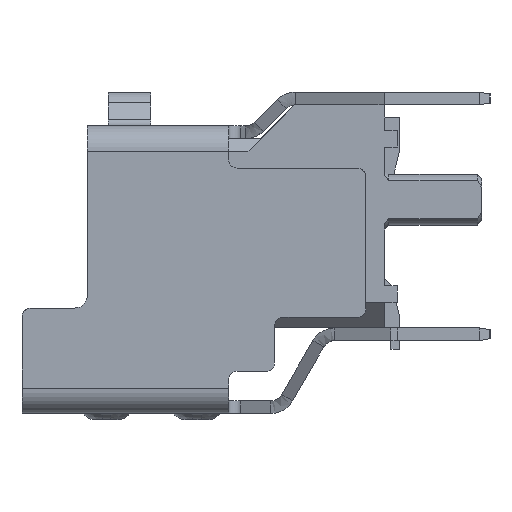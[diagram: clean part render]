
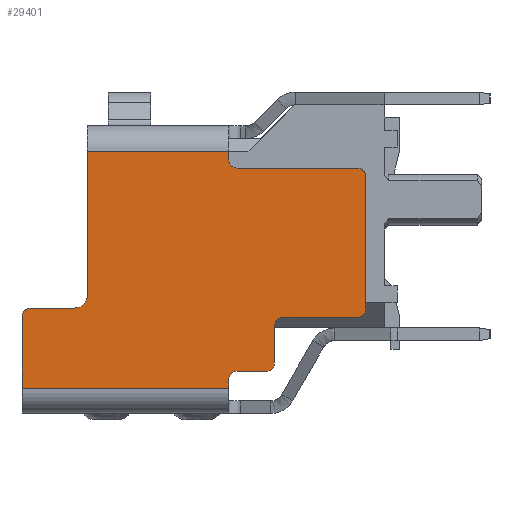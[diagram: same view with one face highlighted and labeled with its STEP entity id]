
A CAD part, left-side view. The second image highlights one B-rep face of the part: STEP entity #29401.
In plain terms, the highlighted planar face has unit normal (-1, 0, 0).
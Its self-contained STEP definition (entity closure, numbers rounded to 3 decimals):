
#6807=DIRECTION('',(0.,0.,-1.));
#6808=VECTOR('',#6807,1.7);
#6809=CARTESIAN_POINT('',(-12.9,8.37,-1.97));
#6810=LINE('',#6809,#6808);
#6998=DIRECTION('',(0.,-1.,0.));
#6999=VECTOR('',#6998,4.9);
#7000=CARTESIAN_POINT('',(-12.9,8.37,-3.67));
#7001=LINE('',#7000,#6999);
#7002=CARTESIAN_POINT('',(-12.9,6.62,1.78));
#7003=DIRECTION('',(1.,0.,0.));
#7004=DIRECTION('',(0.,0.978,-0.207));
#7005=AXIS2_PLACEMENT_3D('',#7002,#7003,#7004);
#7007=DIRECTION('',(0.,0.,-1.));
#7008=VECTOR('',#7007,0.2);
#7009=CARTESIAN_POINT('',(-12.9,3.47,1.95));
#7010=LINE('',#7009,#7008);
#7011=CARTESIAN_POINT('',(-12.9,3.27,1.75));
#7012=DIRECTION('',(-1.,0.,0.));
#7013=DIRECTION('',(0.,1.,0.));
#7014=AXIS2_PLACEMENT_3D('',#7011,#7012,#7013);
#7016=CARTESIAN_POINT('',(-12.9,0.42,1.35));
#7017=DIRECTION('',(1.,0.,0.));
#7018=DIRECTION('',(0.,0.,1.));
#7019=AXIS2_PLACEMENT_3D('',#7016,#7017,#7018);
#7021=DIRECTION('',(0.,0.,-1.));
#7022=VECTOR('',#7021,3.14);
#7023=CARTESIAN_POINT('',(-12.9,0.22,1.35));
#7024=LINE('',#7023,#7022);
#7025=CARTESIAN_POINT('',(-12.9,0.42,-1.79));
#7026=DIRECTION('',(1.,0.,0.));
#7027=DIRECTION('',(0.,-1.,0.));
#7028=AXIS2_PLACEMENT_3D('',#7025,#7026,#7027);
#7030=DIRECTION('',(0.,1.,0.));
#7031=VECTOR('',#7030,1.76);
#7032=CARTESIAN_POINT('',(-12.9,0.42,-1.99));
#7033=LINE('',#7032,#7031);
#7034=CARTESIAN_POINT('',(-12.9,2.18,-2.19));
#7035=DIRECTION('',(-1.,0.,0.));
#7036=DIRECTION('',(0.,0.,1.));
#7037=AXIS2_PLACEMENT_3D('',#7034,#7035,#7036);
#7039=DIRECTION('',(0.,0.,-1.));
#7040=VECTOR('',#7039,0.88);
#7041=CARTESIAN_POINT('',(-12.9,2.38,-2.19));
#7042=LINE('',#7041,#7040);
#7043=CARTESIAN_POINT('',(-12.9,2.58,-3.07));
#7044=DIRECTION('',(1.,0.,0.));
#7045=DIRECTION('',(0.,-1.,0.));
#7046=AXIS2_PLACEMENT_3D('',#7043,#7044,#7045);
#7048=DIRECTION('',(0.,1.,0.));
#7049=VECTOR('',#7048,0.69);
#7050=CARTESIAN_POINT('',(-12.9,2.58,-3.27));
#7051=LINE('',#7050,#7049);
#7052=CARTESIAN_POINT('',(-12.9,3.27,-3.47));
#7053=DIRECTION('',(-1.,0.,0.));
#7054=DIRECTION('',(0.,0.,1.));
#7055=AXIS2_PLACEMENT_3D('',#7052,#7053,#7054);
#7057=DIRECTION('',(0.,0.,-1.));
#7058=VECTOR('',#7057,0.2);
#7059=CARTESIAN_POINT('',(-12.9,3.47,-3.47));
#7060=LINE('',#7059,#7058);
#7061=CARTESIAN_POINT('',(-12.9,8.17,-1.97));
#7062=DIRECTION('',(1.,0.,0.));
#7063=DIRECTION('',(0.,1.,0.));
#7064=AXIS2_PLACEMENT_3D('',#7061,#7062,#7063);
#7066=CARTESIAN_POINT('',(-12.9,7.12,-1.47));
#7067=DIRECTION('',(-1.,0.,0.));
#7068=DIRECTION('',(0.,0.,-1.));
#7069=AXIS2_PLACEMENT_3D('',#7066,#7067,#7068);
#7071=DIRECTION('',(0.,0.,-1.));
#7072=VECTOR('',#7071,3.209);
#7073=CARTESIAN_POINT('',(-12.9,6.82,1.739));
#7074=LINE('',#7073,#7072);
#7156=DIRECTION('',(0.,1.,0.));
#7157=VECTOR('',#7156,0.004);
#7158=CARTESIAN_POINT('',(-12.9,6.816,1.739));
#7159=LINE('',#7158,#7157);
#7190=DIRECTION('',(0.,0.,-1.));
#7191=VECTOR('',#7190,0.17);
#7192=CARTESIAN_POINT('',(-12.9,6.82,1.95));
#7193=LINE('',#7192,#7191);
#7228=DIRECTION('',(0.,1.,0.));
#7229=VECTOR('',#7228,2.85);
#7230=CARTESIAN_POINT('',(-12.9,0.42,1.55));
#7231=LINE('',#7230,#7229);
#7292=DIRECTION('',(0.,1.,0.));
#7293=VECTOR('',#7292,3.35);
#7294=CARTESIAN_POINT('',(-12.9,3.47,1.95));
#7295=LINE('',#7294,#7293);
#7510=DIRECTION('',(0.,1.,0.));
#7511=VECTOR('',#7510,1.05);
#7512=CARTESIAN_POINT('',(-12.9,7.12,-1.77));
#7513=LINE('',#7512,#7511);
#18683=CARTESIAN_POINT('',(-12.9,8.37,-1.97));
#18684=VERTEX_POINT('',#18683);
#18685=CARTESIAN_POINT('',(-12.9,8.37,-3.67));
#18686=VERTEX_POINT('',#18685);
#19039=CARTESIAN_POINT('',(-12.9,3.47,-3.67));
#19040=VERTEX_POINT('',#19039);
#19041=CARTESIAN_POINT('',(-12.9,3.47,-3.47));
#19042=VERTEX_POINT('',#19041);
#19047=CARTESIAN_POINT('',(-12.9,6.82,1.739));
#19048=CARTESIAN_POINT('',(-12.9,6.82,-1.47));
#19049=VERTEX_POINT('',#19047);
#19050=VERTEX_POINT('',#19048);
#19051=CARTESIAN_POINT('',(-12.9,6.816,1.739));
#19052=VERTEX_POINT('',#19051);
#19053=CARTESIAN_POINT('',(-12.9,6.82,1.78));
#19054=VERTEX_POINT('',#19053);
#19055=CARTESIAN_POINT('',(-12.9,6.82,1.95));
#19056=VERTEX_POINT('',#19055);
#19057=CARTESIAN_POINT('',(-12.9,3.47,1.95));
#19058=VERTEX_POINT('',#19057);
#19059=CARTESIAN_POINT('',(-12.9,3.47,1.75));
#19060=VERTEX_POINT('',#19059);
#19061=CARTESIAN_POINT('',(-12.9,3.27,1.55));
#19062=VERTEX_POINT('',#19061);
#19063=CARTESIAN_POINT('',(-12.9,0.42,1.55));
#19064=VERTEX_POINT('',#19063);
#19065=CARTESIAN_POINT('',(-12.9,0.22,1.35));
#19066=VERTEX_POINT('',#19065);
#19067=CARTESIAN_POINT('',(-12.9,0.22,-1.79));
#19068=VERTEX_POINT('',#19067);
#19069=CARTESIAN_POINT('',(-12.9,0.42,-1.99));
#19070=VERTEX_POINT('',#19069);
#19071=CARTESIAN_POINT('',(-12.9,2.18,-1.99));
#19072=VERTEX_POINT('',#19071);
#19073=CARTESIAN_POINT('',(-12.9,2.38,-2.19));
#19074=VERTEX_POINT('',#19073);
#19075=CARTESIAN_POINT('',(-12.9,2.38,-3.07));
#19076=VERTEX_POINT('',#19075);
#19077=CARTESIAN_POINT('',(-12.9,2.58,-3.27));
#19078=VERTEX_POINT('',#19077);
#19079=CARTESIAN_POINT('',(-12.9,3.27,-3.27));
#19080=VERTEX_POINT('',#19079);
#19081=CARTESIAN_POINT('',(-12.9,8.17,-1.77));
#19082=VERTEX_POINT('',#19081);
#19083=CARTESIAN_POINT('',(-12.9,7.12,-1.77));
#19084=VERTEX_POINT('',#19083);
#29351=CARTESIAN_POINT('',(-12.9,4.295,-0.86));
#29352=DIRECTION('',(1.,0.,0.));
#29353=DIRECTION('',(0.,0.,-1.));
#29354=AXIS2_PLACEMENT_3D('',#29351,#29352,#29353);
#29355=PLANE('',#29354);
#29357=ORIENTED_EDGE('',*,*,#29356,.F.);
#29359=ORIENTED_EDGE('',*,*,#29358,.F.);
#29361=ORIENTED_EDGE('',*,*,#29360,.T.);
#29363=ORIENTED_EDGE('',*,*,#29362,.F.);
#29365=ORIENTED_EDGE('',*,*,#29364,.F.);
#29367=ORIENTED_EDGE('',*,*,#29366,.T.);
#29369=ORIENTED_EDGE('',*,*,#29368,.T.);
#29371=ORIENTED_EDGE('',*,*,#29370,.F.);
#29373=ORIENTED_EDGE('',*,*,#29372,.T.);
#29375=ORIENTED_EDGE('',*,*,#29374,.T.);
#29377=ORIENTED_EDGE('',*,*,#29376,.T.);
#29379=ORIENTED_EDGE('',*,*,#29378,.T.);
#29381=ORIENTED_EDGE('',*,*,#29380,.T.);
#29383=ORIENTED_EDGE('',*,*,#29382,.T.);
#29385=ORIENTED_EDGE('',*,*,#29384,.T.);
#29387=ORIENTED_EDGE('',*,*,#29386,.T.);
#29389=ORIENTED_EDGE('',*,*,#29388,.T.);
#29390=ORIENTED_EDGE('',*,*,#29324,.T.);
#29391=ORIENTED_EDGE('',*,*,#29345,.F.);
#29392=ORIENTED_EDGE('',*,*,#29085,.F.);
#29394=ORIENTED_EDGE('',*,*,#29393,.T.);
#29396=ORIENTED_EDGE('',*,*,#29395,.F.);
#29398=ORIENTED_EDGE('',*,*,#29397,.T.);
#29399=EDGE_LOOP('',(#29357,#29359,#29361,#29363,#29365,#29367,#29369,#29371,
#29373,#29375,#29377,#29379,#29381,#29383,#29385,#29387,#29389,#29390,#29391,
#29392,#29394,#29396,#29398));
#29400=FACE_OUTER_BOUND('',#29399,.F.);
#7006=CIRCLE('',#7005,0.2);
#7015=CIRCLE('',#7014,0.2);
#7020=CIRCLE('',#7019,0.2);
#7029=CIRCLE('',#7028,0.2);
#7038=CIRCLE('',#7037,0.2);
#7047=CIRCLE('',#7046,0.2);
#7056=CIRCLE('',#7055,0.2);
#7065=CIRCLE('',#7064,0.2);
#7070=CIRCLE('',#7069,0.3);
#29085=EDGE_CURVE('',#18684,#18686,#6810,.T.);
#29324=EDGE_CURVE('',#19042,#19040,#7060,.T.);
#29345=EDGE_CURVE('',#18686,#19040,#7001,.T.);
#29356=EDGE_CURVE('',#19049,#19050,#7074,.T.);
#29358=EDGE_CURVE('',#19052,#19049,#7159,.T.);
#29360=EDGE_CURVE('',#19052,#19054,#7006,.T.);
#29362=EDGE_CURVE('',#19056,#19054,#7193,.T.);
#29364=EDGE_CURVE('',#19058,#19056,#7295,.T.);
#29366=EDGE_CURVE('',#19058,#19060,#7010,.T.);
#29368=EDGE_CURVE('',#19060,#19062,#7015,.T.);
#29370=EDGE_CURVE('',#19064,#19062,#7231,.T.);
#29372=EDGE_CURVE('',#19064,#19066,#7020,.T.);
#29374=EDGE_CURVE('',#19066,#19068,#7024,.T.);
#29376=EDGE_CURVE('',#19068,#19070,#7029,.T.);
#29378=EDGE_CURVE('',#19070,#19072,#7033,.T.);
#29380=EDGE_CURVE('',#19072,#19074,#7038,.T.);
#29382=EDGE_CURVE('',#19074,#19076,#7042,.T.);
#29384=EDGE_CURVE('',#19076,#19078,#7047,.T.);
#29386=EDGE_CURVE('',#19078,#19080,#7051,.T.);
#29388=EDGE_CURVE('',#19080,#19042,#7056,.T.);
#29393=EDGE_CURVE('',#18684,#19082,#7065,.T.);
#29395=EDGE_CURVE('',#19084,#19082,#7513,.T.);
#29397=EDGE_CURVE('',#19084,#19050,#7070,.T.);
#29401=ADVANCED_FACE('',(#29400),#29355,.F.);
